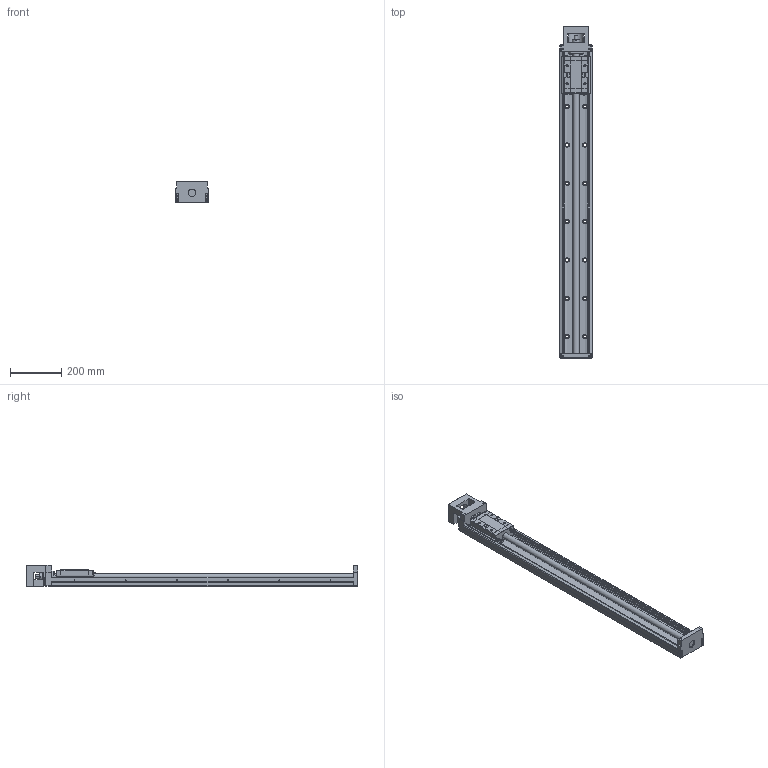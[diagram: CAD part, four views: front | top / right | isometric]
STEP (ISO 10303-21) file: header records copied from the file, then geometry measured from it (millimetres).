
FILE_DESCRIPTION(('no description'),'unknown implementation level');
FILE_NAME('KK13025P1180A1F0000_FILE_2.stp',' ',('HIWIN GmbH'),('CADClick - KiM GmbH - www.kimweb.de'),'unknown preprocess','ACIS','unknown authorization');
FILE_SCHEMA(('automotive_design'));
Length unit declared in the file: millimetre
Products named in the file (2): KK130_FILE; KK13025P1180A1F0000_FILE
Bounding box: 130 x 1298 x 83 mm (x, y, z)
Volume: 5004346.7 mm3; surface area: 718871.1 mm2
Topology: 2 solids, 7 shells, 795 faces, 1980 edges, 1281 vertices
Faces by surface type: plane 477, cylinder 272, torus 38, cone 6, sphere 2
Entity records: 46554 total; most frequent: DIRECTION 4264, CARTESIAN_POINT 4164, STYLED_ITEM 4056, PRESENTATION_STYLE_ASSIGNMENT 4056, COLOUR_RGB 4056, ORIENTED_EDGE 3956, EDGE_CURVE 1978, CURVE_STYLE 1978
